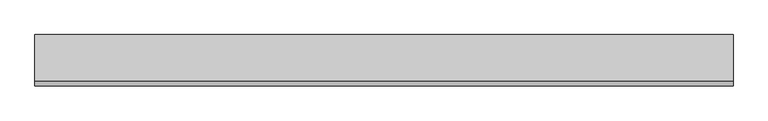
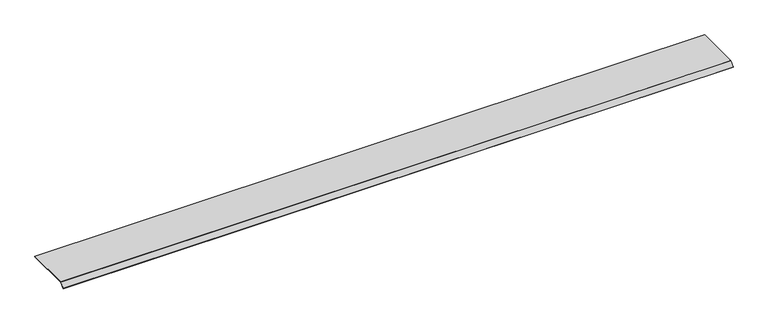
"""IFC4 building model written with IfcOpenShell, lengths in millimetres: proxy geometry, Electrical_Installation_Hager_Blank-Cover-400mm-Double-Sided-Extended-100-Height-40mm : Electrical_Installation_Hager_Blank-Cover-400mm-Double-Sided-Extended-100-Height-40mm."""

from ifc_helpers import new_model, si_unit, point, frame, frame_2d, origin, place, context, project, spatial, polyline, circle_curve, trimmed, segment, composite_curve, outline, extrude, source, transform, mapped, element, save


def electrical_fixtures_589ed178(model_context):
    return source(origin(), model_context, "Body", "SweptSolid", [
        extrude(outline(composite_curve([segment(polyline([(251.4819778, 25.5), (251.4819778, 22.5), (-149.8229541, 22.5)]), True, "CONTINUOUS"), segment(trimmed(circle_curve(frame_2d((-149.8229541, 21.0725733)), 1.4274267), [point((-149.8229541, 22.5))], [point((-150.8322972, 22.0819164))], True, "CARTESIAN"), True, "CONTINUOUS"), segment(polyline([(-150.8322972, 22.0819164), (-187.91729, -15.0030764), (-190.0386103, -12.8817561), (-152.8206472, 24.336207)]), True, "CONTINUOUS"), segment(trimmed(circle_curve(frame_2d((-150.0110025, 21.5265623)), 3.9734377), [point((-152.8206472, 24.336207))], [point((-150.0110025, 25.5))], False, "CARTESIAN"), True, "CONTINUOUS"), segment(polyline([(-150.0110025, 25.5), (251.4819778, 25.5)]), True, "CONTINUOUS")], self_intersect=False)), frame((0.0, 0.0, 0.0), z_axis=(1.0, 0.0, 0.0), x_axis=(0.0, 1.0, 0.0)), (0.0, 0.0, 1.0), 6011.6956759),
    ])


if __name__ == "__main__":
    model = new_model("IFC4")
    model_context = context("Model", 3, world=origin())
    ifc_project = project(units=[si_unit("LENGTHUNIT", "METRE", prefix="MILLI")], contexts=[model_context])
    site = spatial("IfcSite", under=ifc_project)
    building = spatial("IfcBuilding", under=site)
    placement = place(None, origin())
    electrical_fixtures_shape = electrical_fixtures_589ed178(model_context)
    element("IfcBuildingElementProxy", 1, Name="Electrical_Installation_Hager_Blank-Cover-400mm-Double-Sided-Extended-100-Height-40mm : Electrical_Installation_Hager_Blank-Cover-400mm-Double-Sided-Extended-100-Height-40mm", ObjectType="Electrical_Installation_Hager_Blank-Cover-400mm-Double-Sided-Extended-100-Height-40mm : Electrical_Installation_Hager_Blank-Cover-400mm-Double-Sided-Extended-100-Height-40mm", at=placement, inside=building, context=model_context, shape_type="MappedRepresentation", body=[
        mapped(electrical_fixtures_shape, transform((0.0, 0.0, 0.0), x_axis=(1.0, 0.0, 0.0), y_axis=(0.0, 1.0, 0.0), z_axis=(0.0, 0.0, 1.0))),
    ])
    save(model, "model.ifc")
